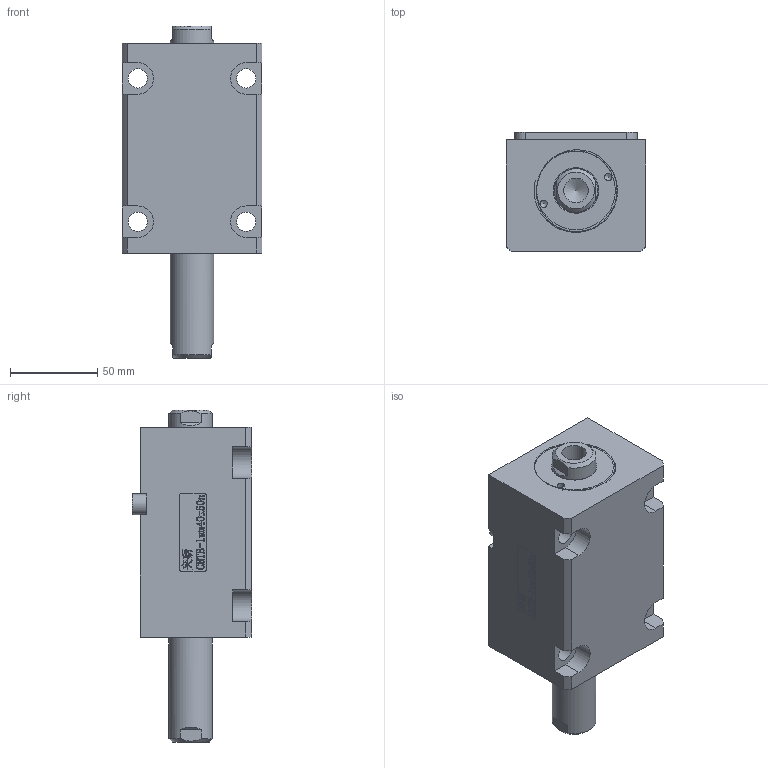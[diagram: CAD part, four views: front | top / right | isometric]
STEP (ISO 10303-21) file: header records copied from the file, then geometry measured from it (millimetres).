
FILE_DESCRIPTION(/* description */ (''),/* implementation_level */ '2;1');
FILE_NAME(/* name */ 'CHTB-lwm40x50n.stp',/* time_stamp */ '2022-04-29T17:36:57+08:00',/* author */ (''),/* organization */ (''),/* preprocessor_version */ 'ST-DEVELOPER v16.7',/* originating_system */ 'SIEMENS PLM Software NX 12.0',/* authorisation */ '');
FILE_SCHEMA (('AUTOMOTIVE_DESIGN { 1 0 10303 214 3 1 1 1 }'));
Length unit declared in the file: millimetre
Products named in the file (1): CHTB-lwm40x50n
Bounding box: 80 x 68.5 x 190 mm (x, y, z)
Volume: 569252.9 mm3; surface area: 100082.5 mm2
Topology: 4 solids, 4 shells, 503 faces, 1383 edges, 924 vertices
Faces by surface type: plane 341, extrusion 98, cylinder 41, torus 10, cone 7, bspline 6
Full cylindrical faces by diameter (mm): 4.2 x2, 5 x2, 11 x4, 12 x2, 14 x2, 25 x4, 29 x1, 34 x2, 40 x4, 45 x1
Entity records: 22191 total; most frequent: CARTESIAN_POINT 7259, ORIENTED_EDGE 2636, DIRECTION 2070, EDGE_CURVE 1318, VECTOR 1084, LINE 986, VERTEX_POINT 906, EDGE_LOOP 598
